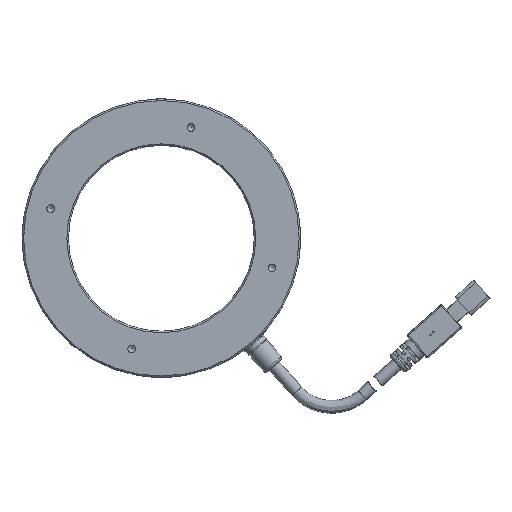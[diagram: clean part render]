
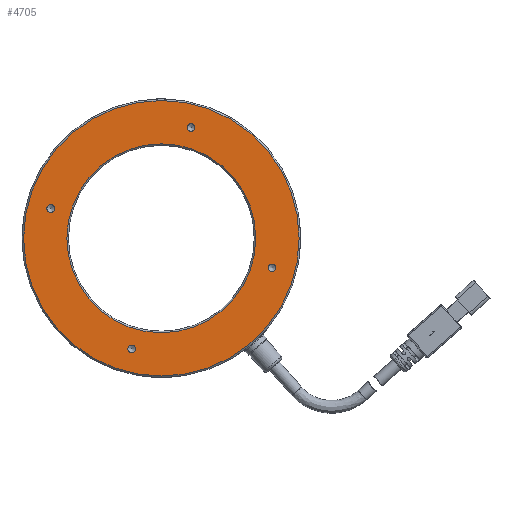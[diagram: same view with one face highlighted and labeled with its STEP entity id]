
A CAD part, front view. The second image highlights one B-rep face of the part: STEP entity #4705.
In plain terms, the highlighted planar face has unit normal (0, -1, 0).
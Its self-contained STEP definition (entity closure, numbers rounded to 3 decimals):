
#187 = CARTESIAN_POINT ( 'NONE',  ( -44.363, 4.974, 10.826 ) ) ;
#274 = CARTESIAN_POINT ( 'NONE',  ( -18.2, 4.974, -34.489 ) ) ;
#524 = FACE_BOUND ( 'NONE', #8449, .T. ) ;
#669 = AXIS2_PLACEMENT_3D ( 'NONE', #4899, #2952, #2112 ) ;
#727 = AXIS2_PLACEMENT_3D ( 'NONE', #11972, #8342, #11002 ) ;
#886 = VERTEX_POINT ( 'NONE', #187 ) ;
#1182 = CARTESIAN_POINT ( 'NONE',  ( 0.953, 4.974, 36.989 ) ) ;
#1318 = EDGE_CURVE ( 'NONE', #6681, #6681, #10795, .T. ) ;
#1410 = CARTESIAN_POINT ( 'NONE',  ( 0.953, 4.974, 35.739 ) ) ;
#1571 = PLANE ( 'NONE',  #727 ) ;
#1676 = CIRCLE ( 'NONE', #9031, 1.25 ) ;
#1709 = ORIENTED_EDGE ( 'NONE', *, *, #6216, .T. ) ;
#1870 = CARTESIAN_POINT ( 'NONE',  ( -8.623, 4.974, 0. ) ) ;
#1986 = CARTESIAN_POINT ( 'NONE',  ( -18.2, 4.974, -35.739 ) ) ;
#2112 = DIRECTION ( 'NONE',  ( 0., 0., 1. ) ) ;
#2213 = EDGE_LOOP ( 'NONE', ( #10100 ) ) ;
#2266 = EDGE_CURVE ( 'NONE', #9300, #9300, #8091, .T. ) ;
#2480 = AXIS2_PLACEMENT_3D ( 'NONE', #1870, #7372, #8313 ) ;
#2952 = DIRECTION ( 'NONE',  ( 0., 1., 0. ) ) ;
#3096 = AXIS2_PLACEMENT_3D ( 'NONE', #1986, #10430, #3905 ) ;
#3101 = DIRECTION ( 'NONE',  ( 0., 0., 1. ) ) ;
#3181 = EDGE_LOOP ( 'NONE', ( #4901 ) ) ;
#3426 = ORIENTED_EDGE ( 'NONE', *, *, #1318, .T. ) ;
#3662 = FACE_OUTER_BOUND ( 'NONE', #4058, .T. ) ;
#3905 = DIRECTION ( 'NONE',  ( 0., 0., 1. ) ) ;
#3927 = CARTESIAN_POINT ( 'NONE',  ( -8.623, 4.974, 0. ) ) ;
#3928 = ORIENTED_EDGE ( 'NONE', *, *, #4296, .F. ) ;
#3983 = EDGE_CURVE ( 'NONE', #886, #886, #4973, .T. ) ;
#4058 = EDGE_LOOP ( 'NONE', ( #3928 ) ) ;
#4296 = EDGE_CURVE ( 'NONE', #11499, #11499, #4697, .T. ) ;
#4353 = EDGE_CURVE ( 'NONE', #10620, #10620, #6614, .T. ) ;
#4462 = VERTEX_POINT ( 'NONE', #1182 ) ;
#4697 = CIRCLE ( 'NONE', #2480, 44.5 ) ;
#4705 = ADVANCED_FACE ( 'NONE', ( #10128, #3662, #9383, #6900, #5277, #524 ), #1571, .F. ) ;
#4899 = CARTESIAN_POINT ( 'NONE',  ( 27.116, 4.974, -9.576 ) ) ;
#4901 = ORIENTED_EDGE ( 'NONE', *, *, #2266, .F. ) ;
#4973 = CIRCLE ( 'NONE', #10978, 1.25 ) ;
#5219 = DIRECTION ( 'NONE',  ( 0., 1., 0. ) ) ;
#5277 = FACE_BOUND ( 'NONE', #7568, .T. ) ;
#6216 = EDGE_CURVE ( 'NONE', #4462, #4462, #1676, .T. ) ;
#6351 = AXIS2_PLACEMENT_3D ( 'NONE', #3927, #8574, #12216 ) ;
#6614 = CIRCLE ( 'NONE', #3096, 1.25 ) ;
#6681 = VERTEX_POINT ( 'NONE', #11480 ) ;
#6900 = FACE_BOUND ( 'NONE', #2213, .T. ) ;
#6914 = CARTESIAN_POINT ( 'NONE',  ( -44.363, 4.974, 9.576 ) ) ;
#7372 = DIRECTION ( 'NONE',  ( 0., 1., 0. ) ) ;
#7568 = EDGE_LOOP ( 'NONE', ( #8072 ) ) ;
#7720 = CARTESIAN_POINT ( 'NONE',  ( -8.623, 4.974, -30.5 ) ) ;
#7821 = DIRECTION ( 'NONE',  ( 0., 1., 0. ) ) ;
#7847 = CARTESIAN_POINT ( 'NONE',  ( -8.623, 4.974, 44.5 ) ) ;
#8072 = ORIENTED_EDGE ( 'NONE', *, *, #4353, .T. ) ;
#8091 = CIRCLE ( 'NONE', #6351, 30.5 ) ;
#8313 = DIRECTION ( 'NONE',  ( 0., 0., 1. ) ) ;
#8342 = DIRECTION ( 'NONE',  ( 0., 1., 0. ) ) ;
#8449 = EDGE_LOOP ( 'NONE', ( #3426 ) ) ;
#8574 = DIRECTION ( 'NONE',  ( 0., -1., 0. ) ) ;
#9031 = AXIS2_PLACEMENT_3D ( 'NONE', #1410, #5219, #10020 ) ;
#9300 = VERTEX_POINT ( 'NONE', #7720 ) ;
#9383 = FACE_BOUND ( 'NONE', #11028, .T. ) ;
#10020 = DIRECTION ( 'NONE',  ( 0., 0., 1. ) ) ;
#10100 = ORIENTED_EDGE ( 'NONE', *, *, #3983, .T. ) ;
#10128 = FACE_BOUND ( 'NONE', #3181, .T. ) ;
#10430 = DIRECTION ( 'NONE',  ( 0., 1., 0. ) ) ;
#10620 = VERTEX_POINT ( 'NONE', #274 ) ;
#10795 = CIRCLE ( 'NONE', #669, 1.25 ) ;
#10978 = AXIS2_PLACEMENT_3D ( 'NONE', #6914, #7821, #3101 ) ;
#11002 = DIRECTION ( 'NONE',  ( 0., 0., 1. ) ) ;
#11028 = EDGE_LOOP ( 'NONE', ( #1709 ) ) ;
#11480 = CARTESIAN_POINT ( 'NONE',  ( 27.116, 4.974, -8.326 ) ) ;
#11499 = VERTEX_POINT ( 'NONE', #7847 ) ;
#11972 = CARTESIAN_POINT ( 'NONE',  ( -8.623, 4.974, 0. ) ) ;
#12216 = DIRECTION ( 'NONE',  ( 0., 0., -1. ) ) ;
